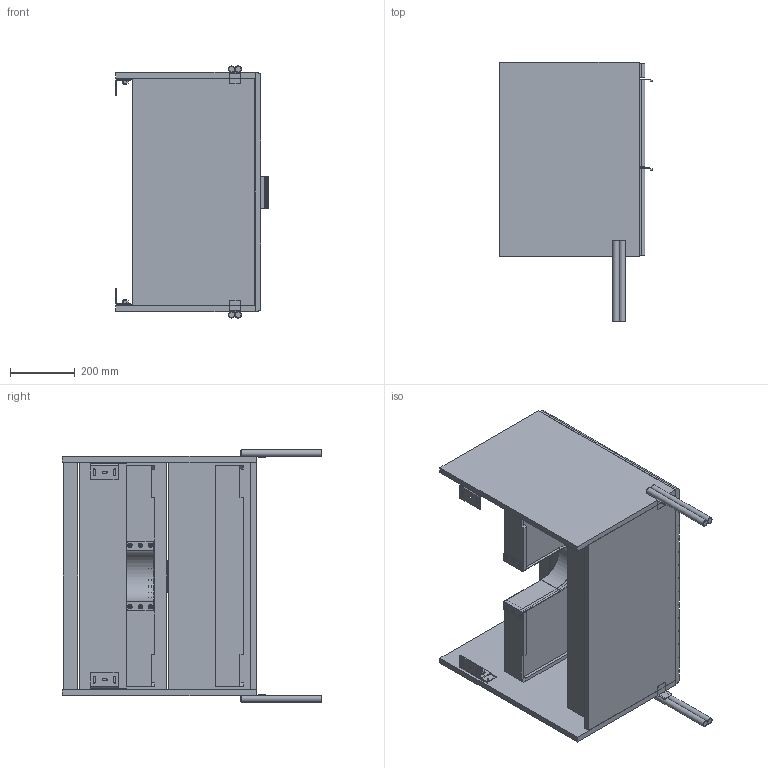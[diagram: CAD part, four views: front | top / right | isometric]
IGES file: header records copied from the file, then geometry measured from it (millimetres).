
Global section: file name: Noble Lavabo Dolabı 3D,; native system: Autodesk Inventor 2024; preprocessor: unknown; author: pc19; date: 20240620.152308; units: millimetre
Bounding box: 472.98 x 802 x 779.99 mm (x, y, z)
Volume: 29432165.8 mm3; surface area: 4594841.4 mm2
Topology: 32 solids, 32 shells, 689 faces, 1820 edges, 1235 vertices
Faces by surface type: bspline 689
